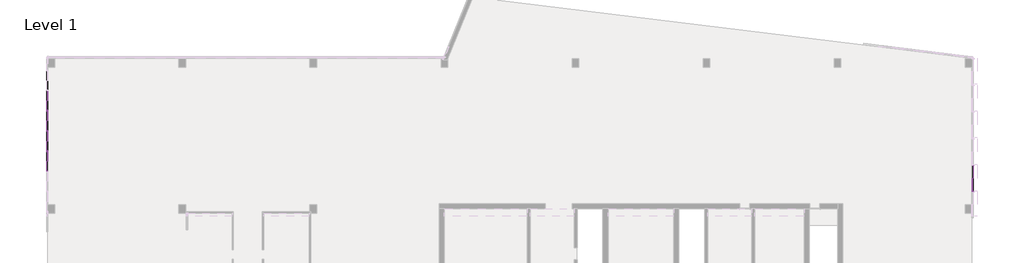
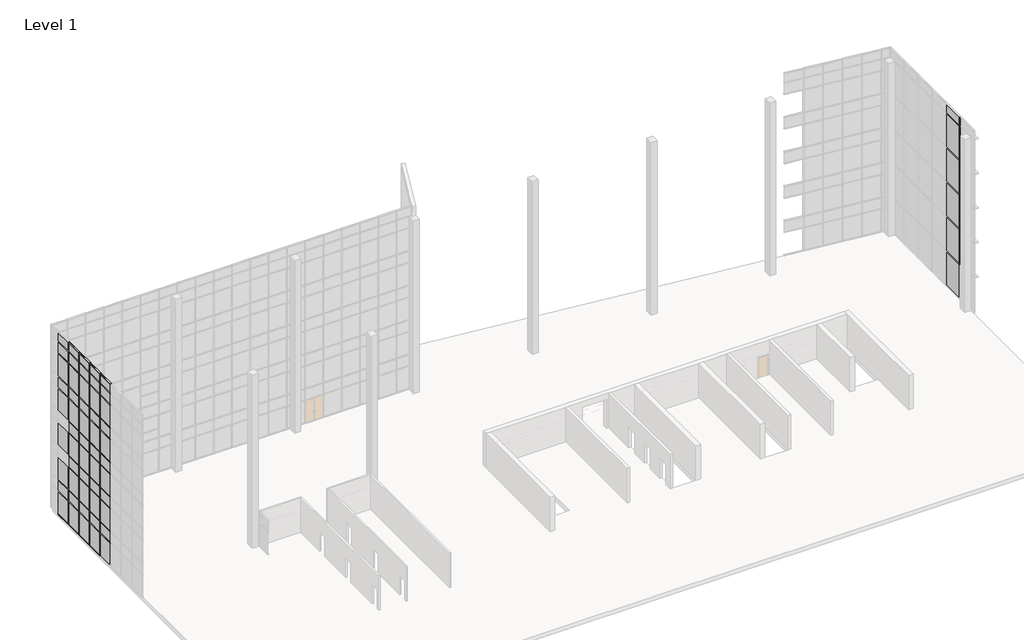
# One storey, part 9 of 23: 71 members, 59 plates.
"""IFC4 building model written with IfcOpenShell, lengths in millimetres."""

from ifc_helpers import new_model, si_unit, origin, place, context, project, spatial, transform, mapped, element, save
from components import member_f92b8aa2, member_810865a4, member_6d5c3e5e, member_64b167af, member_9764dd38, system_panel_glazed_14c75400, system_panel_glazed_b79bd3cf, system_panel_solid_5dfe6f83, system_panel_solid_e25e2004, system_panel_solid_b7551183, system_panel_solid_52d708f1

model = new_model("IFC4")

# Units and contexts
model_context = context("Model", 3, world=origin())
ifc_project = project(units=[si_unit("LENGTHUNIT", "METRE", prefix="MILLI")], contexts=[model_context])

# Site, building, storey
site = spatial("IfcSite", under=ifc_project)
building = spatial("IfcBuilding", under=site)
storey = spatial("IfcBuildingStorey", under=building, Name="Level 1", Elevation=0.0)

# Members
placement = place(None, origin())
member_shape = member_f92b8aa2(model_context)
element("IfcMember", 1, ObjectType="Rectangular Mullion : 2.5\" x 5\" rectangular", at=placement, inside=storey, context=model_context, shape_type="MappedRepresentation", body=[
    mapped(member_shape, transform((-68724.2599961, 1531.0146508, 18288.0), x_axis=(0.0, 1.0, 0.0), y_axis=(1.0, 0.0, 0.0), z_axis=(0.0, 0.0, -1.0))),
])
element("IfcMember", 2, ObjectType="Rectangular Mullion : 2.5\" x 5\" rectangular", at=placement, inside=storey, context=model_context, shape_type="MappedRepresentation", body=[
    mapped(member_shape, transform((-68724.2599961, 3359.8146508, 18288.0), x_axis=(0.0, 1.0, 0.0), y_axis=(1.0, 0.0, 0.0), z_axis=(0.0, 0.0, -1.0))),
])
element("IfcMember", 3, ObjectType="Rectangular Mullion : 2.5\" x 5\" rectangular", at=placement, inside=storey, context=model_context, shape_type="MappedRepresentation", body=[
    mapped(member_shape, transform((-68724.2599961, 5188.6146508, 18288.0), x_axis=(0.0, 1.0, 0.0), y_axis=(1.0, 0.0, 0.0), z_axis=(0.0, 0.0, -1.0))),
])
member_2_shape = member_810865a4(model_context)
element("IfcMember", 4, ObjectType="Rectangular Mullion : 2.5\" x 5\" rectangular", at=placement, inside=storey, context=model_context, shape_type="MappedRepresentation", body=[
    mapped(member_2_shape, transform((15106.8054088, -2125.9620978, 3666.6228811), x_axis=(0.0, -1.0, 0.0), y_axis=(-1.0, 0.0, 0.0), z_axis=(0.0, 0.0, -1.0))),
])
element("IfcMember", 5, ObjectType="Rectangular Mullion : 2.5\" x 5\" rectangular", at=placement, inside=storey, context=model_context, shape_type="MappedRepresentation", body=[
    mapped(member_2_shape, transform((15106.8054088, -2125.9620978, 7324.2228811), x_axis=(0.0, -1.0, 0.0), y_axis=(-1.0, 0.0, 0.0), z_axis=(0.0, 0.0, -1.0))),
])
element("IfcMember", 6, ObjectType="Rectangular Mullion : 2.5\" x 5\" rectangular", at=placement, inside=storey, context=model_context, shape_type="MappedRepresentation", body=[
    mapped(member_2_shape, transform((15106.8054088, -2125.9620978, 10981.8228811), x_axis=(0.0, -1.0, 0.0), y_axis=(-1.0, 0.0, 0.0), z_axis=(0.0, 0.0, -1.0))),
])
element("IfcMember", 7, ObjectType="Rectangular Mullion : 2.5\" x 5\" rectangular", at=placement, inside=storey, context=model_context, shape_type="MappedRepresentation", body=[
    mapped(member_2_shape, transform((15106.8054088, -2125.9620978, 14639.4228811), x_axis=(0.0, -1.0, 0.0), y_axis=(-1.0, 0.0, 0.0), z_axis=(0.0, 0.0, -1.0))),
])
element("IfcMember", 8, ObjectType="Rectangular Mullion : 2.5\" x 5\" rectangular", at=placement, inside=storey, context=model_context, shape_type="MappedRepresentation", body=[
    mapped(member_2_shape, transform((-68724.2599961, 1531.0146508, 3657.6), x_axis=(0.0, 1.0, 0.0), y_axis=(1.0, 0.0, 0.0), z_axis=(0.0, 0.0, -1.0))),
])
element("IfcMember", 9, ObjectType="Rectangular Mullion : 2.5\" x 5\" rectangular", at=placement, inside=storey, context=model_context, shape_type="MappedRepresentation", body=[
    mapped(member_2_shape, transform((-68724.2599961, 3359.8146508, 3657.6), x_axis=(0.0, 1.0, 0.0), y_axis=(1.0, 0.0, 0.0), z_axis=(0.0, 0.0, -1.0))),
])
element("IfcMember", 10, ObjectType="Rectangular Mullion : 2.5\" x 5\" rectangular", at=placement, inside=storey, context=model_context, shape_type="MappedRepresentation", body=[
    mapped(member_2_shape, transform((-68724.2599961, 5188.6146508, 3657.6), x_axis=(0.0, 1.0, 0.0), y_axis=(1.0, 0.0, 0.0), z_axis=(0.0, 0.0, -1.0))),
])
element("IfcMember", 11, ObjectType="Rectangular Mullion : 2.5\" x 5\" rectangular", at=placement, inside=storey, context=model_context, shape_type="MappedRepresentation", body=[
    mapped(member_2_shape, transform((-68724.2599961, 1531.0146508, 7315.2), x_axis=(0.0, 1.0, 0.0), y_axis=(1.0, 0.0, 0.0), z_axis=(0.0, 0.0, -1.0))),
])
element("IfcMember", 12, ObjectType="Rectangular Mullion : 2.5\" x 5\" rectangular", at=placement, inside=storey, context=model_context, shape_type="MappedRepresentation", body=[
    mapped(member_2_shape, transform((-68724.2599961, 3359.8146508, 7315.2), x_axis=(0.0, 1.0, 0.0), y_axis=(1.0, 0.0, 0.0), z_axis=(0.0, 0.0, -1.0))),
])
element("IfcMember", 13, ObjectType="Rectangular Mullion : 2.5\" x 5\" rectangular", at=placement, inside=storey, context=model_context, shape_type="MappedRepresentation", body=[
    mapped(member_2_shape, transform((-68724.2599961, 5188.6146508, 7315.2), x_axis=(0.0, 1.0, 0.0), y_axis=(1.0, 0.0, 0.0), z_axis=(0.0, 0.0, -1.0))),
])
element("IfcMember", 14, ObjectType="Rectangular Mullion : 2.5\" x 5\" rectangular", at=placement, inside=storey, context=model_context, shape_type="MappedRepresentation", body=[
    mapped(member_2_shape, transform((-68724.2599961, 1531.0146508, 10972.8), x_axis=(0.0, 1.0, 0.0), y_axis=(1.0, 0.0, 0.0), z_axis=(0.0, 0.0, -1.0))),
])
element("IfcMember", 15, ObjectType="Rectangular Mullion : 2.5\" x 5\" rectangular", at=placement, inside=storey, context=model_context, shape_type="MappedRepresentation", body=[
    mapped(member_2_shape, transform((-68724.2599961, 3359.8146508, 10972.8), x_axis=(0.0, 1.0, 0.0), y_axis=(1.0, 0.0, 0.0), z_axis=(0.0, 0.0, -1.0))),
])
element("IfcMember", 16, ObjectType="Rectangular Mullion : 2.5\" x 5\" rectangular", at=placement, inside=storey, context=model_context, shape_type="MappedRepresentation", body=[
    mapped(member_2_shape, transform((-68724.2599961, 5188.6146508, 10972.8), x_axis=(0.0, 1.0, 0.0), y_axis=(1.0, 0.0, 0.0), z_axis=(0.0, 0.0, -1.0))),
])
element("IfcMember", 17, ObjectType="Rectangular Mullion : 2.5\" x 5\" rectangular", at=placement, inside=storey, context=model_context, shape_type="MappedRepresentation", body=[
    mapped(member_2_shape, transform((-68724.2599961, 1531.0146508, 14630.4), x_axis=(0.0, 1.0, 0.0), y_axis=(1.0, 0.0, 0.0), z_axis=(0.0, 0.0, -1.0))),
])
element("IfcMember", 18, ObjectType="Rectangular Mullion : 2.5\" x 5\" rectangular", at=placement, inside=storey, context=model_context, shape_type="MappedRepresentation", body=[
    mapped(member_2_shape, transform((-68724.2599961, 3359.8146508, 14630.4), x_axis=(0.0, 1.0, 0.0), y_axis=(1.0, 0.0, 0.0), z_axis=(0.0, 0.0, -1.0))),
])
element("IfcMember", 19, ObjectType="Rectangular Mullion : 2.5\" x 5\" rectangular", at=placement, inside=storey, context=model_context, shape_type="MappedRepresentation", body=[
    mapped(member_2_shape, transform((-68724.2599961, 5188.6146508, 14630.4), x_axis=(0.0, 1.0, 0.0), y_axis=(1.0, 0.0, 0.0), z_axis=(0.0, 0.0, -1.0))),
])
member_3_shape = member_6d5c3e5e(model_context)
element("IfcMember", 20, ObjectType="Rectangular Mullion : 2.5\" x 5\" rectangular", at=placement, inside=storey, context=model_context, shape_type="MappedRepresentation", body=[
    mapped(member_3_shape, transform((-68724.2599961, 1499.2646508, 19304.0), x_axis=(0.0, 0.0, 1.0), y_axis=(1.0, 0.0, 0.0), z_axis=(0.0, 1.0, 0.0))),
])
element("IfcMember", 21, ObjectType="Rectangular Mullion : 2.5\" x 5\" rectangular", at=placement, inside=storey, context=model_context, shape_type="MappedRepresentation", body=[
    mapped(member_3_shape, transform((-68724.2599961, 3328.0646508, 19304.0), x_axis=(0.0, 0.0, 1.0), y_axis=(1.0, 0.0, 0.0), z_axis=(0.0, 1.0, 0.0))),
])
element("IfcMember", 22, ObjectType="Rectangular Mullion : 2.5\" x 5\" rectangular", at=placement, inside=storey, context=model_context, shape_type="MappedRepresentation", body=[
    mapped(member_3_shape, transform((-68724.2599961, 5156.8646508, 19304.0), x_axis=(0.0, 0.0, 1.0), y_axis=(1.0, 0.0, 0.0), z_axis=(0.0, 1.0, 0.0))),
])
element("IfcMember", 23, ObjectType="Rectangular Mullion : 2.5\" x 5\" rectangular", at=placement, inside=storey, context=model_context, shape_type="MappedRepresentation", body=[
    mapped(member_3_shape, transform((-68724.2599961, 6985.6646508, 19304.0), x_axis=(0.0, 0.0, 1.0), y_axis=(1.0, 0.0, 0.0), z_axis=(0.0, 1.0, 0.0))),
])
member_4_shape = member_64b167af(model_context)
element("IfcMember", 24, ObjectType="Rectangular Mullion : 2.5\" x 5\" rectangular", at=placement, inside=storey, context=model_context, shape_type="MappedRepresentation", body=[
    mapped(member_4_shape, transform((15106.8054088, -2125.9620978, 18297.0228811), x_axis=(0.0, -1.0, 0.0), y_axis=(-1.0, 0.0, 0.0), z_axis=(0.0, 0.0, -1.0))),
])
member_5_shape = member_9764dd38(model_context)
element("IfcMember", 25, ObjectType="Rectangular Mullion : 2.5\" x 5\" rectangular", at=placement, inside=storey, context=model_context, shape_type="MappedRepresentation", body=[
    mapped(member_5_shape, transform((-68724.2599961, 6985.6646508, 17068.8), x_axis=(0.0, 0.0, 1.0), y_axis=(1.0, 0.0, 0.0), z_axis=(0.0, 1.0, 0.0))),
])
element("IfcMember", 26, ObjectType="Rectangular Mullion : 2.5\" x 5\" rectangular", at=placement, inside=storey, context=model_context, shape_type="MappedRepresentation", body=[
    mapped(member_5_shape, transform((-68724.2599961, 5156.8646508, 17068.8), x_axis=(0.0, 0.0, 1.0), y_axis=(1.0, 0.0, 0.0), z_axis=(0.0, 1.0, 0.0))),
])
element("IfcMember", 27, ObjectType="Rectangular Mullion : 2.5\" x 5\" rectangular", at=placement, inside=storey, context=model_context, shape_type="MappedRepresentation", body=[
    mapped(member_5_shape, transform((-68724.2599961, 3328.0646508, 17068.8), x_axis=(0.0, 0.0, 1.0), y_axis=(1.0, 0.0, 0.0), z_axis=(0.0, 1.0, 0.0))),
])
element("IfcMember", 28, ObjectType="Rectangular Mullion : 2.5\" x 5\" rectangular", at=placement, inside=storey, context=model_context, shape_type="MappedRepresentation", body=[
    mapped(member_5_shape, transform((-68724.2599961, 1499.2646508, 17068.8), x_axis=(0.0, 0.0, 1.0), y_axis=(1.0, 0.0, 0.0), z_axis=(0.0, 1.0, 0.0))),
])
element("IfcMember", 29, ObjectType="Rectangular Mullion : 2.5\" x 5\" rectangular", at=placement, inside=storey, context=model_context, shape_type="MappedRepresentation", body=[
    mapped(member_5_shape, transform((-68724.2599961, 6985.6646508, 13411.2), x_axis=(0.0, 0.0, 1.0), y_axis=(1.0, 0.0, 0.0), z_axis=(0.0, 1.0, 0.0))),
])
element("IfcMember", 30, ObjectType="Rectangular Mullion : 2.5\" x 5\" rectangular", at=placement, inside=storey, context=model_context, shape_type="MappedRepresentation", body=[
    mapped(member_5_shape, transform((-68724.2599961, 5156.8646508, 13411.2), x_axis=(0.0, 0.0, 1.0), y_axis=(1.0, 0.0, 0.0), z_axis=(0.0, 1.0, 0.0))),
])
element("IfcMember", 31, ObjectType="Rectangular Mullion : 2.5\" x 5\" rectangular", at=placement, inside=storey, context=model_context, shape_type="MappedRepresentation", body=[
    mapped(member_5_shape, transform((-68724.2599961, 3328.0646508, 13411.2), x_axis=(0.0, 0.0, 1.0), y_axis=(1.0, 0.0, 0.0), z_axis=(0.0, 1.0, 0.0))),
])
element("IfcMember", 32, ObjectType="Rectangular Mullion : 2.5\" x 5\" rectangular", at=placement, inside=storey, context=model_context, shape_type="MappedRepresentation", body=[
    mapped(member_5_shape, transform((-68724.2599961, 1499.2646508, 13411.2), x_axis=(0.0, 0.0, 1.0), y_axis=(1.0, 0.0, 0.0), z_axis=(0.0, 1.0, 0.0))),
])
element("IfcMember", 33, ObjectType="Rectangular Mullion : 2.5\" x 5\" rectangular", at=placement, inside=storey, context=model_context, shape_type="MappedRepresentation", body=[
    mapped(member_5_shape, transform((-68724.2599961, 6985.6646508, 9753.6), x_axis=(0.0, 0.0, 1.0), y_axis=(1.0, 0.0, 0.0), z_axis=(0.0, 1.0, 0.0))),
])
element("IfcMember", 34, ObjectType="Rectangular Mullion : 2.5\" x 5\" rectangular", at=placement, inside=storey, context=model_context, shape_type="MappedRepresentation", body=[
    mapped(member_5_shape, transform((-68724.2599961, 5156.8646508, 9753.6), x_axis=(0.0, 0.0, 1.0), y_axis=(1.0, 0.0, 0.0), z_axis=(0.0, 1.0, 0.0))),
])
element("IfcMember", 35, ObjectType="Rectangular Mullion : 2.5\" x 5\" rectangular", at=placement, inside=storey, context=model_context, shape_type="MappedRepresentation", body=[
    mapped(member_5_shape, transform((-68724.2599961, 3328.0646508, 9753.6), x_axis=(0.0, 0.0, 1.0), y_axis=(1.0, 0.0, 0.0), z_axis=(0.0, 1.0, 0.0))),
])
element("IfcMember", 36, ObjectType="Rectangular Mullion : 2.5\" x 5\" rectangular", at=placement, inside=storey, context=model_context, shape_type="MappedRepresentation", body=[
    mapped(member_5_shape, transform((-68724.2599961, 1499.2646508, 9753.6), x_axis=(0.0, 0.0, 1.0), y_axis=(1.0, 0.0, 0.0), z_axis=(0.0, 1.0, 0.0))),
])
element("IfcMember", 37, ObjectType="Rectangular Mullion : 2.5\" x 5\" rectangular", at=placement, inside=storey, context=model_context, shape_type="MappedRepresentation", body=[
    mapped(member_5_shape, transform((-68724.2599961, 6985.6646508, 6096.0), x_axis=(0.0, 0.0, 1.0), y_axis=(1.0, 0.0, 0.0), z_axis=(0.0, 1.0, 0.0))),
])
element("IfcMember", 38, ObjectType="Rectangular Mullion : 2.5\" x 5\" rectangular", at=placement, inside=storey, context=model_context, shape_type="MappedRepresentation", body=[
    mapped(member_5_shape, transform((-68724.2599961, 5156.8646508, 6096.0), x_axis=(0.0, 0.0, 1.0), y_axis=(1.0, 0.0, 0.0), z_axis=(0.0, 1.0, 0.0))),
])
element("IfcMember", 39, ObjectType="Rectangular Mullion : 2.5\" x 5\" rectangular", at=placement, inside=storey, context=model_context, shape_type="MappedRepresentation", body=[
    mapped(member_5_shape, transform((-68724.2599961, 3328.0646508, 6096.0), x_axis=(0.0, 0.0, 1.0), y_axis=(1.0, 0.0, 0.0), z_axis=(0.0, 1.0, 0.0))),
])
element("IfcMember", 40, ObjectType="Rectangular Mullion : 2.5\" x 5\" rectangular", at=placement, inside=storey, context=model_context, shape_type="MappedRepresentation", body=[
    mapped(member_5_shape, transform((-68724.2599961, 1499.2646508, 6096.0), x_axis=(0.0, 0.0, 1.0), y_axis=(1.0, 0.0, 0.0), z_axis=(0.0, 1.0, 0.0))),
])
element("IfcMember", 41, ObjectType="Rectangular Mullion : 2.5\" x 5\" rectangular", at=placement, inside=storey, context=model_context, shape_type="MappedRepresentation", body=[
    mapped(member_5_shape, transform((-68724.2599961, 6985.6646508, 2470.15), x_axis=(0.0, 0.0, 1.0), y_axis=(1.0, 0.0, 0.0), z_axis=(0.0, 1.0, 0.0))),
])
element("IfcMember", 42, ObjectType="Rectangular Mullion : 2.5\" x 5\" rectangular", at=placement, inside=storey, context=model_context, shape_type="MappedRepresentation", body=[
    mapped(member_5_shape, transform((-68724.2599961, 5156.8646508, 2470.15), x_axis=(0.0, 0.0, 1.0), y_axis=(1.0, 0.0, 0.0), z_axis=(0.0, 1.0, 0.0))),
])
element("IfcMember", 43, ObjectType="Rectangular Mullion : 2.5\" x 5\" rectangular", at=placement, inside=storey, context=model_context, shape_type="MappedRepresentation", body=[
    mapped(member_5_shape, transform((-68724.2599961, 3328.0646508, 2470.15), x_axis=(0.0, 0.0, 1.0), y_axis=(1.0, 0.0, 0.0), z_axis=(0.0, 1.0, 0.0))),
])
element("IfcMember", 44, ObjectType="Rectangular Mullion : 2.5\" x 5\" rectangular", at=placement, inside=storey, context=model_context, shape_type="MappedRepresentation", body=[
    mapped(member_5_shape, transform((-68724.2599961, 1499.2646508, 2470.15), x_axis=(0.0, 0.0, 1.0), y_axis=(1.0, 0.0, 0.0), z_axis=(0.0, 1.0, 0.0))),
])
element("IfcMember", 45, ObjectType="Rectangular Mullion : 2.5\" x 5\" rectangular", at=placement, inside=storey, context=model_context, shape_type="MappedRepresentation", body=[
    mapped(member_2_shape, transform((-68724.2599961, 1531.0146508, 0.0), x_axis=(0.0, 1.0, 0.0), y_axis=(1.0, 0.0, 0.0), z_axis=(0.0, 0.0, -1.0))),
])
element("IfcMember", 46, ObjectType="Rectangular Mullion : 2.5\" x 5\" rectangular", at=placement, inside=storey, context=model_context, shape_type="MappedRepresentation", body=[
    mapped(member_2_shape, transform((-68724.2599961, 3359.8146508, 0.0), x_axis=(0.0, 1.0, 0.0), y_axis=(1.0, 0.0, 0.0), z_axis=(0.0, 0.0, -1.0))),
])
element("IfcMember", 47, ObjectType="Rectangular Mullion : 2.5\" x 5\" rectangular", at=placement, inside=storey, context=model_context, shape_type="MappedRepresentation", body=[
    mapped(member_2_shape, transform((-68724.2599961, 5188.6146508, 0.0), x_axis=(0.0, 1.0, 0.0), y_axis=(1.0, 0.0, 0.0), z_axis=(0.0, 0.0, -1.0))),
])
element("IfcMember", 48, ObjectType="Rectangular Mullion : 2.5\" x 5\" rectangular", at=placement, inside=storey, context=model_context, shape_type="MappedRepresentation", body=[
    mapped(member_3_shape, transform((-68724.2599961, 1562.7646508, 0.0), x_axis=(0.0, 0.0, -1.0), y_axis=(1.0, 0.0, 0.0), z_axis=(0.0, -1.0, 0.0))),
])
element("IfcMember", 49, ObjectType="Rectangular Mullion : 2.5\" x 5\" rectangular", at=placement, inside=storey, context=model_context, shape_type="MappedRepresentation", body=[
    mapped(member_3_shape, transform((-68724.2599961, 3391.5646508, 0.0), x_axis=(0.0, 0.0, -1.0), y_axis=(1.0, 0.0, 0.0), z_axis=(0.0, -1.0, 0.0))),
])
element("IfcMember", 50, ObjectType="Rectangular Mullion : 2.5\" x 5\" rectangular", at=placement, inside=storey, context=model_context, shape_type="MappedRepresentation", body=[
    mapped(member_3_shape, transform((-68724.2599961, 5220.3646508, 0.0), x_axis=(0.0, 0.0, -1.0), y_axis=(1.0, 0.0, 0.0), z_axis=(0.0, -1.0, 0.0))),
])
element("IfcMember", 51, ObjectType="Rectangular Mullion : 2.5\" x 5\" rectangular", at=placement, inside=storey, context=model_context, shape_type="MappedRepresentation", body=[
    mapped(member_3_shape, transform((-68724.2599961, 7049.1646508, 0.0), x_axis=(0.0, 0.0, -1.0), y_axis=(1.0, 0.0, 0.0), z_axis=(0.0, -1.0, 0.0))),
])
element("IfcMember", 52, ObjectType="Rectangular Mullion : 2.5\" x 5\" rectangular", at=placement, inside=storey, context=model_context, shape_type="MappedRepresentation", body=[
    mapped(member_5_shape, transform((-68724.2599961, 1499.2646508, 3657.6), x_axis=(0.0, 0.0, 1.0), y_axis=(1.0, 0.0, 0.0), z_axis=(0.0, 1.0, 0.0))),
])
element("IfcMember", 53, ObjectType="Rectangular Mullion : 2.5\" x 5\" rectangular", at=placement, inside=storey, context=model_context, shape_type="MappedRepresentation", body=[
    mapped(member_5_shape, transform((-68724.2599961, 3328.0646508, 3657.6), x_axis=(0.0, 0.0, 1.0), y_axis=(1.0, 0.0, 0.0), z_axis=(0.0, 1.0, 0.0))),
])
element("IfcMember", 54, ObjectType="Rectangular Mullion : 2.5\" x 5\" rectangular", at=placement, inside=storey, context=model_context, shape_type="MappedRepresentation", body=[
    mapped(member_5_shape, transform((-68724.2599961, 5156.8646508, 3657.6), x_axis=(0.0, 0.0, 1.0), y_axis=(1.0, 0.0, 0.0), z_axis=(0.0, 1.0, 0.0))),
])
element("IfcMember", 55, ObjectType="Rectangular Mullion : 2.5\" x 5\" rectangular", at=placement, inside=storey, context=model_context, shape_type="MappedRepresentation", body=[
    mapped(member_5_shape, transform((-68724.2599961, 6985.6646508, 3657.6), x_axis=(0.0, 0.0, 1.0), y_axis=(1.0, 0.0, 0.0), z_axis=(0.0, 1.0, 0.0))),
])
element("IfcMember", 56, ObjectType="Rectangular Mullion : 2.5\" x 5\" rectangular", at=placement, inside=storey, context=model_context, shape_type="MappedRepresentation", body=[
    mapped(member_5_shape, transform((-68724.2599961, 1499.2646508, 7315.2), x_axis=(0.0, 0.0, 1.0), y_axis=(1.0, 0.0, 0.0), z_axis=(0.0, 1.0, 0.0))),
])
element("IfcMember", 57, ObjectType="Rectangular Mullion : 2.5\" x 5\" rectangular", at=placement, inside=storey, context=model_context, shape_type="MappedRepresentation", body=[
    mapped(member_5_shape, transform((-68724.2599961, 3328.0646508, 7315.2), x_axis=(0.0, 0.0, 1.0), y_axis=(1.0, 0.0, 0.0), z_axis=(0.0, 1.0, 0.0))),
])
element("IfcMember", 58, ObjectType="Rectangular Mullion : 2.5\" x 5\" rectangular", at=placement, inside=storey, context=model_context, shape_type="MappedRepresentation", body=[
    mapped(member_5_shape, transform((-68724.2599961, 5156.8646508, 7315.2), x_axis=(0.0, 0.0, 1.0), y_axis=(1.0, 0.0, 0.0), z_axis=(0.0, 1.0, 0.0))),
])
element("IfcMember", 59, ObjectType="Rectangular Mullion : 2.5\" x 5\" rectangular", at=placement, inside=storey, context=model_context, shape_type="MappedRepresentation", body=[
    mapped(member_5_shape, transform((-68724.2599961, 6985.6646508, 7315.2), x_axis=(0.0, 0.0, 1.0), y_axis=(1.0, 0.0, 0.0), z_axis=(0.0, 1.0, 0.0))),
])
element("IfcMember", 60, ObjectType="Rectangular Mullion : 2.5\" x 5\" rectangular", at=placement, inside=storey, context=model_context, shape_type="MappedRepresentation", body=[
    mapped(member_5_shape, transform((-68724.2599961, 1499.2646508, 10972.8), x_axis=(0.0, 0.0, 1.0), y_axis=(1.0, 0.0, 0.0), z_axis=(0.0, 1.0, 0.0))),
])
element("IfcMember", 61, ObjectType="Rectangular Mullion : 2.5\" x 5\" rectangular", at=placement, inside=storey, context=model_context, shape_type="MappedRepresentation", body=[
    mapped(member_5_shape, transform((-68724.2599961, 3328.0646508, 10972.8), x_axis=(0.0, 0.0, 1.0), y_axis=(1.0, 0.0, 0.0), z_axis=(0.0, 1.0, 0.0))),
])
element("IfcMember", 62, ObjectType="Rectangular Mullion : 2.5\" x 5\" rectangular", at=placement, inside=storey, context=model_context, shape_type="MappedRepresentation", body=[
    mapped(member_5_shape, transform((-68724.2599961, 5156.8646508, 10972.8), x_axis=(0.0, 0.0, 1.0), y_axis=(1.0, 0.0, 0.0), z_axis=(0.0, 1.0, 0.0))),
])
element("IfcMember", 63, ObjectType="Rectangular Mullion : 2.5\" x 5\" rectangular", at=placement, inside=storey, context=model_context, shape_type="MappedRepresentation", body=[
    mapped(member_5_shape, transform((-68724.2599961, 6985.6646508, 10972.8), x_axis=(0.0, 0.0, 1.0), y_axis=(1.0, 0.0, 0.0), z_axis=(0.0, 1.0, 0.0))),
])
element("IfcMember", 64, ObjectType="Rectangular Mullion : 2.5\" x 5\" rectangular", at=placement, inside=storey, context=model_context, shape_type="MappedRepresentation", body=[
    mapped(member_5_shape, transform((-68724.2599961, 1499.2646508, 14630.4), x_axis=(0.0, 0.0, 1.0), y_axis=(1.0, 0.0, 0.0), z_axis=(0.0, 1.0, 0.0))),
])
element("IfcMember", 65, ObjectType="Rectangular Mullion : 2.5\" x 5\" rectangular", at=placement, inside=storey, context=model_context, shape_type="MappedRepresentation", body=[
    mapped(member_5_shape, transform((-68724.2599961, 3328.0646508, 14630.4), x_axis=(0.0, 0.0, 1.0), y_axis=(1.0, 0.0, 0.0), z_axis=(0.0, 1.0, 0.0))),
])
element("IfcMember", 66, ObjectType="Rectangular Mullion : 2.5\" x 5\" rectangular", at=placement, inside=storey, context=model_context, shape_type="MappedRepresentation", body=[
    mapped(member_5_shape, transform((-68724.2599961, 5156.8646508, 14630.4), x_axis=(0.0, 0.0, 1.0), y_axis=(1.0, 0.0, 0.0), z_axis=(0.0, 1.0, 0.0))),
])
element("IfcMember", 67, ObjectType="Rectangular Mullion : 2.5\" x 5\" rectangular", at=placement, inside=storey, context=model_context, shape_type="MappedRepresentation", body=[
    mapped(member_5_shape, transform((-68724.2599961, 6985.6646508, 14630.4), x_axis=(0.0, 0.0, 1.0), y_axis=(1.0, 0.0, 0.0), z_axis=(0.0, 1.0, 0.0))),
])
element("IfcMember", 68, ObjectType="Rectangular Mullion : 2.5\" x 5\" rectangular", at=placement, inside=storey, context=model_context, shape_type="MappedRepresentation", body=[
    mapped(member_5_shape, transform((-68724.2599961, 1499.2646508, 18288.0), x_axis=(0.0, 0.0, 1.0), y_axis=(1.0, 0.0, 0.0), z_axis=(0.0, 1.0, 0.0))),
])
element("IfcMember", 69, ObjectType="Rectangular Mullion : 2.5\" x 5\" rectangular", at=placement, inside=storey, context=model_context, shape_type="MappedRepresentation", body=[
    mapped(member_5_shape, transform((-68724.2599961, 3328.0646508, 18288.0), x_axis=(0.0, 0.0, 1.0), y_axis=(1.0, 0.0, 0.0), z_axis=(0.0, 1.0, 0.0))),
])
element("IfcMember", 70, ObjectType="Rectangular Mullion : 2.5\" x 5\" rectangular", at=placement, inside=storey, context=model_context, shape_type="MappedRepresentation", body=[
    mapped(member_5_shape, transform((-68724.2599961, 5156.8646508, 18288.0), x_axis=(0.0, 0.0, 1.0), y_axis=(1.0, 0.0, 0.0), z_axis=(0.0, 1.0, 0.0))),
])
element("IfcMember", 71, ObjectType="Rectangular Mullion : 2.5\" x 5\" rectangular", at=placement, inside=storey, context=model_context, shape_type="MappedRepresentation", body=[
    mapped(member_5_shape, transform((-68724.2599961, 6985.6646508, 18288.0), x_axis=(0.0, 0.0, 1.0), y_axis=(1.0, 0.0, 0.0), z_axis=(0.0, 1.0, 0.0))),
])

# Plates
system_panel_glazed_shape = system_panel_glazed_14c75400(model_context)
element("IfcPlate", 72, ObjectType="System Panel : Glazed", at=placement, inside=storey, context=model_context, shape_type="MappedRepresentation", body=[
    mapped(system_panel_glazed_shape, transform((-68724.2599961, 7931.8146508, 14662.15), x_axis=(0.0, 1.0, 0.0), y_axis=(-1.0, 0.0, 0.0), z_axis=(0.0, 0.0, 1.0))),
])
element("IfcPlate", 73, ObjectType="System Panel : Glazed", at=placement, inside=storey, context=model_context, shape_type="MappedRepresentation", body=[
    mapped(system_panel_glazed_shape, transform((-68724.2599961, 6103.0146508, 14662.15), x_axis=(0.0, 1.0, 0.0), y_axis=(-1.0, 0.0, 0.0), z_axis=(0.0, 0.0, 1.0))),
])
element("IfcPlate", 74, ObjectType="System Panel : Glazed", at=placement, inside=storey, context=model_context, shape_type="MappedRepresentation", body=[
    mapped(system_panel_glazed_shape, transform((-68724.2599961, 4274.2146508, 14662.15), x_axis=(0.0, 1.0, 0.0), y_axis=(-1.0, 0.0, 0.0), z_axis=(0.0, 0.0, 1.0))),
])
element("IfcPlate", 75, ObjectType="System Panel : Glazed", at=placement, inside=storey, context=model_context, shape_type="MappedRepresentation", body=[
    mapped(system_panel_glazed_shape, transform((-68724.2599961, 2445.4146508, 14662.15), x_axis=(0.0, 1.0, 0.0), y_axis=(-1.0, 0.0, 0.0), z_axis=(0.0, 0.0, 1.0))),
])
element("IfcPlate", 76, ObjectType="System Panel : Glazed", at=placement, inside=storey, context=model_context, shape_type="MappedRepresentation", body=[
    mapped(system_panel_glazed_shape, transform((-68724.2599961, 616.6146508, 14662.15), x_axis=(0.0, 1.0, 0.0), y_axis=(-1.0, 0.0, 0.0), z_axis=(0.0, 0.0, 1.0))),
])
element("IfcPlate", 77, ObjectType="System Panel : Glazed", at=placement, inside=storey, context=model_context, shape_type="MappedRepresentation", body=[
    mapped(system_panel_glazed_shape, transform((-68724.2599961, 7931.8146508, 11004.55), x_axis=(0.0, 1.0, 0.0), y_axis=(-1.0, 0.0, 0.0), z_axis=(0.0, 0.0, 1.0))),
])
element("IfcPlate", 78, ObjectType="System Panel : Glazed", at=placement, inside=storey, context=model_context, shape_type="MappedRepresentation", body=[
    mapped(system_panel_glazed_shape, transform((-68724.2599961, 6103.0146508, 11004.55), x_axis=(0.0, 1.0, 0.0), y_axis=(-1.0, 0.0, 0.0), z_axis=(0.0, 0.0, 1.0))),
])
element("IfcPlate", 79, ObjectType="System Panel : Glazed", at=placement, inside=storey, context=model_context, shape_type="MappedRepresentation", body=[
    mapped(system_panel_glazed_shape, transform((-68724.2599961, 4274.2146508, 11004.55), x_axis=(0.0, 1.0, 0.0), y_axis=(-1.0, 0.0, 0.0), z_axis=(0.0, 0.0, 1.0))),
])
element("IfcPlate", 80, ObjectType="System Panel : Glazed", at=placement, inside=storey, context=model_context, shape_type="MappedRepresentation", body=[
    mapped(system_panel_glazed_shape, transform((-68724.2599961, 2445.4146508, 11004.55), x_axis=(0.0, 1.0, 0.0), y_axis=(-1.0, 0.0, 0.0), z_axis=(0.0, 0.0, 1.0))),
])
element("IfcPlate", 81, ObjectType="System Panel : Glazed", at=placement, inside=storey, context=model_context, shape_type="MappedRepresentation", body=[
    mapped(system_panel_glazed_shape, transform((-68724.2599961, 616.6146508, 11004.55), x_axis=(0.0, 1.0, 0.0), y_axis=(-1.0, 0.0, 0.0), z_axis=(0.0, 0.0, 1.0))),
])
element("IfcPlate", 82, ObjectType="System Panel : Glazed", at=placement, inside=storey, context=model_context, shape_type="MappedRepresentation", body=[
    mapped(system_panel_glazed_shape, transform((-68724.2599961, 7931.8146508, 7346.95), x_axis=(0.0, 1.0, 0.0), y_axis=(-1.0, 0.0, 0.0), z_axis=(0.0, 0.0, 1.0))),
])
element("IfcPlate", 83, ObjectType="System Panel : Glazed", at=placement, inside=storey, context=model_context, shape_type="MappedRepresentation", body=[
    mapped(system_panel_glazed_shape, transform((-68724.2599961, 6103.0146508, 7346.95), x_axis=(0.0, 1.0, 0.0), y_axis=(-1.0, 0.0, 0.0), z_axis=(0.0, 0.0, 1.0))),
])
element("IfcPlate", 84, ObjectType="System Panel : Glazed", at=placement, inside=storey, context=model_context, shape_type="MappedRepresentation", body=[
    mapped(system_panel_glazed_shape, transform((-68724.2599961, 4274.2146508, 7346.95), x_axis=(0.0, 1.0, 0.0), y_axis=(-1.0, 0.0, 0.0), z_axis=(0.0, 0.0, 1.0))),
])
element("IfcPlate", 85, ObjectType="System Panel : Glazed", at=placement, inside=storey, context=model_context, shape_type="MappedRepresentation", body=[
    mapped(system_panel_glazed_shape, transform((-68724.2599961, 2445.4146508, 7346.95), x_axis=(0.0, 1.0, 0.0), y_axis=(-1.0, 0.0, 0.0), z_axis=(0.0, 0.0, 1.0))),
])
element("IfcPlate", 86, ObjectType="System Panel : Glazed", at=placement, inside=storey, context=model_context, shape_type="MappedRepresentation", body=[
    mapped(system_panel_glazed_shape, transform((-68724.2599961, 616.6146508, 7346.95), x_axis=(0.0, 1.0, 0.0), y_axis=(-1.0, 0.0, 0.0), z_axis=(0.0, 0.0, 1.0))),
])
element("IfcPlate", 87, ObjectType="System Panel : Glazed", at=placement, inside=storey, context=model_context, shape_type="MappedRepresentation", body=[
    mapped(system_panel_glazed_shape, transform((-68724.2599961, 7931.8146508, 3689.35), x_axis=(0.0, 1.0, 0.0), y_axis=(-1.0, 0.0, 0.0), z_axis=(0.0, 0.0, 1.0))),
])
element("IfcPlate", 88, ObjectType="System Panel : Glazed", at=placement, inside=storey, context=model_context, shape_type="MappedRepresentation", body=[
    mapped(system_panel_glazed_shape, transform((-68724.2599961, 6103.0146508, 3689.35), x_axis=(0.0, 1.0, 0.0), y_axis=(-1.0, 0.0, 0.0), z_axis=(0.0, 0.0, 1.0))),
])
element("IfcPlate", 89, ObjectType="System Panel : Glazed", at=placement, inside=storey, context=model_context, shape_type="MappedRepresentation", body=[
    mapped(system_panel_glazed_shape, transform((-68724.2599961, 4274.2146508, 3689.35), x_axis=(0.0, 1.0, 0.0), y_axis=(-1.0, 0.0, 0.0), z_axis=(0.0, 0.0, 1.0))),
])
element("IfcPlate", 90, ObjectType="System Panel : Glazed", at=placement, inside=storey, context=model_context, shape_type="MappedRepresentation", body=[
    mapped(system_panel_glazed_shape, transform((-68724.2599961, 2445.4146508, 3689.35), x_axis=(0.0, 1.0, 0.0), y_axis=(-1.0, 0.0, 0.0), z_axis=(0.0, 0.0, 1.0))),
])
element("IfcPlate", 91, ObjectType="System Panel : Glazed", at=placement, inside=storey, context=model_context, shape_type="MappedRepresentation", body=[
    mapped(system_panel_glazed_shape, transform((-68724.2599961, 616.6146508, 3689.35), x_axis=(0.0, 1.0, 0.0), y_axis=(-1.0, 0.0, 0.0), z_axis=(0.0, 0.0, 1.0))),
])
element("IfcPlate", 92, ObjectType="System Panel : Glazed", at=placement, inside=storey, context=model_context, shape_type="MappedRepresentation", body=[
    mapped(system_panel_glazed_shape, transform((-68724.2599961, 7931.8146508, 63.5), x_axis=(0.0, 1.0, 0.0), y_axis=(-1.0, 0.0, 0.0), z_axis=(0.0, 0.0, 1.0))),
])
element("IfcPlate", 93, ObjectType="System Panel : Glazed", at=placement, inside=storey, context=model_context, shape_type="MappedRepresentation", body=[
    mapped(system_panel_glazed_shape, transform((-68724.2599961, 6103.0146508, 63.5), x_axis=(0.0, 1.0, 0.0), y_axis=(-1.0, 0.0, 0.0), z_axis=(0.0, 0.0, 1.0))),
])
element("IfcPlate", 94, ObjectType="System Panel : Glazed", at=placement, inside=storey, context=model_context, shape_type="MappedRepresentation", body=[
    mapped(system_panel_glazed_shape, transform((-68724.2599961, 4274.2146508, 63.5), x_axis=(0.0, 1.0, 0.0), y_axis=(-1.0, 0.0, 0.0), z_axis=(0.0, 0.0, 1.0))),
])
element("IfcPlate", 95, ObjectType="System Panel : Glazed", at=placement, inside=storey, context=model_context, shape_type="MappedRepresentation", body=[
    mapped(system_panel_glazed_shape, transform((-68724.2599961, 2445.4146508, 63.5), x_axis=(0.0, 1.0, 0.0), y_axis=(-1.0, 0.0, 0.0), z_axis=(0.0, 0.0, 1.0))),
])
element("IfcPlate", 96, ObjectType="System Panel : Glazed", at=placement, inside=storey, context=model_context, shape_type="MappedRepresentation", body=[
    mapped(system_panel_glazed_shape, transform((-68724.2599961, 616.6146508, 63.5), x_axis=(0.0, 1.0, 0.0), y_axis=(-1.0, 0.0, 0.0), z_axis=(0.0, 0.0, 1.0))),
])
system_panel_glazed_2_shape = system_panel_glazed_b79bd3cf(model_context)
element("IfcPlate", 97, ObjectType="System Panel : Glazed", at=placement, inside=storey, context=model_context, shape_type="MappedRepresentation", body=[
    mapped(system_panel_glazed_2_shape, transform((15106.8054088, -917.3360226, 40.7728811), x_axis=(0.0, -1.0, 0.0), y_axis=(1.0, 0.0, 0.0), z_axis=(0.0, 0.0, 1.0))),
])
element("IfcPlate", 98, ObjectType="System Panel : Glazed", at=placement, inside=storey, context=model_context, shape_type="MappedRepresentation", body=[
    mapped(system_panel_glazed_2_shape, transform((15106.8054088, -917.3360226, 3698.3728811), x_axis=(0.0, -1.0, 0.0), y_axis=(1.0, 0.0, 0.0), z_axis=(0.0, 0.0, 1.0))),
])
element("IfcPlate", 99, ObjectType="System Panel : Glazed", at=placement, inside=storey, context=model_context, shape_type="MappedRepresentation", body=[
    mapped(system_panel_glazed_2_shape, transform((15106.8054088, -917.3360226, 7355.9728811), x_axis=(0.0, -1.0, 0.0), y_axis=(1.0, 0.0, 0.0), z_axis=(0.0, 0.0, 1.0))),
])
element("IfcPlate", 100, ObjectType="System Panel : Glazed", at=placement, inside=storey, context=model_context, shape_type="MappedRepresentation", body=[
    mapped(system_panel_glazed_2_shape, transform((15106.8054088, -917.3360226, 11013.5728811), x_axis=(0.0, -1.0, 0.0), y_axis=(1.0, 0.0, 0.0), z_axis=(0.0, 0.0, 1.0))),
])
element("IfcPlate", 101, ObjectType="System Panel : Glazed", at=placement, inside=storey, context=model_context, shape_type="MappedRepresentation", body=[
    mapped(system_panel_glazed_2_shape, transform((15106.8054088, -917.3360226, 14671.1728811), x_axis=(0.0, -1.0, 0.0), y_axis=(1.0, 0.0, 0.0), z_axis=(0.0, 0.0, 1.0))),
])
system_panel_solid_shape = system_panel_solid_5dfe6f83(model_context)
element("IfcPlate", 102, ObjectType="System Panel : Solid", at=placement, inside=storey, context=model_context, shape_type="MappedRepresentation", body=[
    mapped(system_panel_solid_shape, transform((-68724.2599961, 616.6146508, 18319.75), x_axis=(0.0, 1.0, 0.0), y_axis=(-1.0, 0.0, 0.0), z_axis=(0.0, 0.0, 1.0))),
])
element("IfcPlate", 103, ObjectType="System Panel : Solid", at=placement, inside=storey, context=model_context, shape_type="MappedRepresentation", body=[
    mapped(system_panel_solid_shape, transform((-68724.2599961, 2445.4146508, 18319.75), x_axis=(0.0, 1.0, 0.0), y_axis=(-1.0, 0.0, 0.0), z_axis=(0.0, 0.0, 1.0))),
])
element("IfcPlate", 104, ObjectType="System Panel : Solid", at=placement, inside=storey, context=model_context, shape_type="MappedRepresentation", body=[
    mapped(system_panel_solid_shape, transform((-68724.2599961, 4274.2146508, 18319.75), x_axis=(0.0, 1.0, 0.0), y_axis=(-1.0, 0.0, 0.0), z_axis=(0.0, 0.0, 1.0))),
])
element("IfcPlate", 105, ObjectType="System Panel : Solid", at=placement, inside=storey, context=model_context, shape_type="MappedRepresentation", body=[
    mapped(system_panel_solid_shape, transform((-68724.2599961, 6103.0146508, 18319.75), x_axis=(0.0, 1.0, 0.0), y_axis=(-1.0, 0.0, 0.0), z_axis=(0.0, 0.0, 1.0))),
])
element("IfcPlate", 106, ObjectType="System Panel : Solid", at=placement, inside=storey, context=model_context, shape_type="MappedRepresentation", body=[
    mapped(system_panel_solid_shape, transform((-68724.2599961, 7931.8146508, 18319.75), x_axis=(0.0, 1.0, 0.0), y_axis=(-1.0, 0.0, 0.0), z_axis=(0.0, 0.0, 1.0))),
])
system_panel_solid_2_shape = system_panel_solid_e25e2004(model_context)
element("IfcPlate", 107, ObjectType="System Panel : Solid", at=placement, inside=storey, context=model_context, shape_type="MappedRepresentation", body=[
    mapped(system_panel_solid_2_shape, transform((-68724.2599961, 7931.8146508, 17100.55), x_axis=(0.0, 1.0, 0.0), y_axis=(-1.0, 0.0, 0.0), z_axis=(0.0, 0.0, 1.0))),
])
element("IfcPlate", 108, ObjectType="System Panel : Solid", at=placement, inside=storey, context=model_context, shape_type="MappedRepresentation", body=[
    mapped(system_panel_solid_2_shape, transform((-68724.2599961, 6103.0146508, 17100.55), x_axis=(0.0, 1.0, 0.0), y_axis=(-1.0, 0.0, 0.0), z_axis=(0.0, 0.0, 1.0))),
])
element("IfcPlate", 109, ObjectType="System Panel : Solid", at=placement, inside=storey, context=model_context, shape_type="MappedRepresentation", body=[
    mapped(system_panel_solid_2_shape, transform((-68724.2599961, 4274.2146508, 17100.55), x_axis=(0.0, 1.0, 0.0), y_axis=(-1.0, 0.0, 0.0), z_axis=(0.0, 0.0, 1.0))),
])
element("IfcPlate", 110, ObjectType="System Panel : Solid", at=placement, inside=storey, context=model_context, shape_type="MappedRepresentation", body=[
    mapped(system_panel_solid_2_shape, transform((-68724.2599961, 2445.4146508, 17100.55), x_axis=(0.0, 1.0, 0.0), y_axis=(-1.0, 0.0, 0.0), z_axis=(0.0, 0.0, 1.0))),
])
element("IfcPlate", 111, ObjectType="System Panel : Solid", at=placement, inside=storey, context=model_context, shape_type="MappedRepresentation", body=[
    mapped(system_panel_solid_2_shape, transform((-68724.2599961, 616.6146508, 17100.55), x_axis=(0.0, 1.0, 0.0), y_axis=(-1.0, 0.0, 0.0), z_axis=(0.0, 0.0, 1.0))),
])
element("IfcPlate", 112, ObjectType="System Panel : Solid", at=placement, inside=storey, context=model_context, shape_type="MappedRepresentation", body=[
    mapped(system_panel_solid_2_shape, transform((-68724.2599961, 7931.8146508, 13442.95), x_axis=(0.0, 1.0, 0.0), y_axis=(-1.0, 0.0, 0.0), z_axis=(0.0, 0.0, 1.0))),
])
element("IfcPlate", 113, ObjectType="System Panel : Solid", at=placement, inside=storey, context=model_context, shape_type="MappedRepresentation", body=[
    mapped(system_panel_solid_2_shape, transform((-68724.2599961, 6103.0146508, 13442.95), x_axis=(0.0, 1.0, 0.0), y_axis=(-1.0, 0.0, 0.0), z_axis=(0.0, 0.0, 1.0))),
])
element("IfcPlate", 114, ObjectType="System Panel : Solid", at=placement, inside=storey, context=model_context, shape_type="MappedRepresentation", body=[
    mapped(system_panel_solid_2_shape, transform((-68724.2599961, 4274.2146508, 13442.95), x_axis=(0.0, 1.0, 0.0), y_axis=(-1.0, 0.0, 0.0), z_axis=(0.0, 0.0, 1.0))),
])
element("IfcPlate", 115, ObjectType="System Panel : Solid", at=placement, inside=storey, context=model_context, shape_type="MappedRepresentation", body=[
    mapped(system_panel_solid_2_shape, transform((-68724.2599961, 2445.4146508, 13442.95), x_axis=(0.0, 1.0, 0.0), y_axis=(-1.0, 0.0, 0.0), z_axis=(0.0, 0.0, 1.0))),
])
element("IfcPlate", 116, ObjectType="System Panel : Solid", at=placement, inside=storey, context=model_context, shape_type="MappedRepresentation", body=[
    mapped(system_panel_solid_2_shape, transform((-68724.2599961, 616.6146508, 13442.95), x_axis=(0.0, 1.0, 0.0), y_axis=(-1.0, 0.0, 0.0), z_axis=(0.0, 0.0, 1.0))),
])
element("IfcPlate", 117, ObjectType="System Panel : Solid", at=placement, inside=storey, context=model_context, shape_type="MappedRepresentation", body=[
    mapped(system_panel_solid_2_shape, transform((-68724.2599961, 6103.0146508, 9785.35), x_axis=(0.0, 1.0, 0.0), y_axis=(-1.0, 0.0, 0.0), z_axis=(0.0, 0.0, 1.0))),
])
element("IfcPlate", 118, ObjectType="System Panel : Solid", at=placement, inside=storey, context=model_context, shape_type="MappedRepresentation", body=[
    mapped(system_panel_solid_2_shape, transform((-68724.2599961, 4274.2146508, 9785.35), x_axis=(0.0, 1.0, 0.0), y_axis=(-1.0, 0.0, 0.0), z_axis=(0.0, 0.0, 1.0))),
])
element("IfcPlate", 119, ObjectType="System Panel : Solid", at=placement, inside=storey, context=model_context, shape_type="MappedRepresentation", body=[
    mapped(system_panel_solid_2_shape, transform((-68724.2599961, 2445.4146508, 9785.35), x_axis=(0.0, 1.0, 0.0), y_axis=(-1.0, 0.0, 0.0), z_axis=(0.0, 0.0, 1.0))),
])
element("IfcPlate", 120, ObjectType="System Panel : Solid", at=placement, inside=storey, context=model_context, shape_type="MappedRepresentation", body=[
    mapped(system_panel_solid_2_shape, transform((-68724.2599961, 616.6146508, 9785.35), x_axis=(0.0, 1.0, 0.0), y_axis=(-1.0, 0.0, 0.0), z_axis=(0.0, 0.0, 1.0))),
])
element("IfcPlate", 121, ObjectType="System Panel : Solid", at=placement, inside=storey, context=model_context, shape_type="MappedRepresentation", body=[
    mapped(system_panel_solid_2_shape, transform((-68724.2599961, 6103.0146508, 6127.75), x_axis=(0.0, 1.0, 0.0), y_axis=(-1.0, 0.0, 0.0), z_axis=(0.0, 0.0, 1.0))),
])
element("IfcPlate", 122, ObjectType="System Panel : Solid", at=placement, inside=storey, context=model_context, shape_type="MappedRepresentation", body=[
    mapped(system_panel_solid_2_shape, transform((-68724.2599961, 4274.2146508, 6127.75), x_axis=(0.0, 1.0, 0.0), y_axis=(-1.0, 0.0, 0.0), z_axis=(0.0, 0.0, 1.0))),
])
element("IfcPlate", 123, ObjectType="System Panel : Solid", at=placement, inside=storey, context=model_context, shape_type="MappedRepresentation", body=[
    mapped(system_panel_solid_2_shape, transform((-68724.2599961, 2445.4146508, 6127.75), x_axis=(0.0, 1.0, 0.0), y_axis=(-1.0, 0.0, 0.0), z_axis=(0.0, 0.0, 1.0))),
])
element("IfcPlate", 124, ObjectType="System Panel : Solid", at=placement, inside=storey, context=model_context, shape_type="MappedRepresentation", body=[
    mapped(system_panel_solid_2_shape, transform((-68724.2599961, 616.6146508, 6127.75), x_axis=(0.0, 1.0, 0.0), y_axis=(-1.0, 0.0, 0.0), z_axis=(0.0, 0.0, 1.0))),
])
system_panel_solid_3_shape = system_panel_solid_b7551183(model_context)
element("IfcPlate", 125, ObjectType="System Panel : Solid", at=placement, inside=storey, context=model_context, shape_type="MappedRepresentation", body=[
    mapped(system_panel_solid_3_shape, transform((-68724.2599961, 7931.8146508, 2501.9), x_axis=(0.0, 1.0, 0.0), y_axis=(-1.0, 0.0, 0.0), z_axis=(0.0, 0.0, 1.0))),
])
element("IfcPlate", 126, ObjectType="System Panel : Solid", at=placement, inside=storey, context=model_context, shape_type="MappedRepresentation", body=[
    mapped(system_panel_solid_3_shape, transform((-68724.2599961, 6103.0146508, 2501.9), x_axis=(0.0, 1.0, 0.0), y_axis=(-1.0, 0.0, 0.0), z_axis=(0.0, 0.0, 1.0))),
])
element("IfcPlate", 127, ObjectType="System Panel : Solid", at=placement, inside=storey, context=model_context, shape_type="MappedRepresentation", body=[
    mapped(system_panel_solid_3_shape, transform((-68724.2599961, 4274.2146508, 2501.9), x_axis=(0.0, 1.0, 0.0), y_axis=(-1.0, 0.0, 0.0), z_axis=(0.0, 0.0, 1.0))),
])
element("IfcPlate", 128, ObjectType="System Panel : Solid", at=placement, inside=storey, context=model_context, shape_type="MappedRepresentation", body=[
    mapped(system_panel_solid_3_shape, transform((-68724.2599961, 2445.4146508, 2501.9), x_axis=(0.0, 1.0, 0.0), y_axis=(-1.0, 0.0, 0.0), z_axis=(0.0, 0.0, 1.0))),
])
element("IfcPlate", 129, ObjectType="System Panel : Solid", at=placement, inside=storey, context=model_context, shape_type="MappedRepresentation", body=[
    mapped(system_panel_solid_3_shape, transform((-68724.2599961, 616.6146508, 2501.9), x_axis=(0.0, 1.0, 0.0), y_axis=(-1.0, 0.0, 0.0), z_axis=(0.0, 0.0, 1.0))),
])
system_panel_solid_4_shape = system_panel_solid_52d708f1(model_context)
element("IfcPlate", 130, ObjectType="System Panel : Solid", at=placement, inside=storey, context=model_context, shape_type="MappedRepresentation", body=[
    mapped(system_panel_solid_4_shape, transform((15106.8054088, -917.3360226, 18328.7728811), x_axis=(0.0, -1.0, 0.0), y_axis=(1.0, 0.0, 0.0), z_axis=(0.0, 0.0, 1.0))),
])

save(model, "model.ifc")
